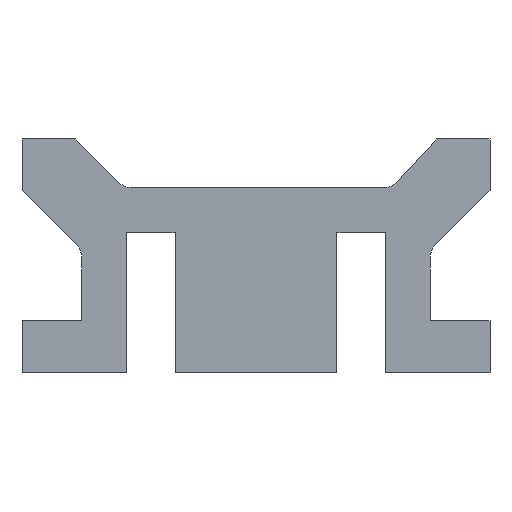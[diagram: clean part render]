
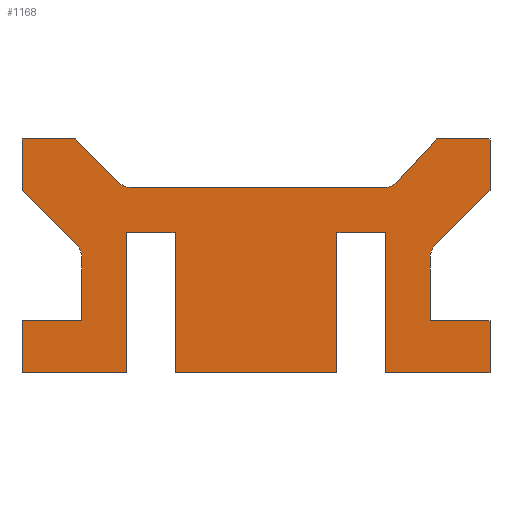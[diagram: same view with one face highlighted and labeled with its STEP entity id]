
A CAD part, front view. The second image highlights one B-rep face of the part: STEP entity #1168.
In plain terms, the highlighted planar face has unit normal (0, -1, 0).
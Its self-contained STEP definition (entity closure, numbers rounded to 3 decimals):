
#1=DIRECTION('',(-0.707,0.,0.707));
#2=VECTOR('',#1,6.525);
#3=CARTESIAN_POINT('',(-14.686,-200.,-4.614));
#4=LINE('',#3,#2);
#5=DIRECTION('',(-1.,0.,0.));
#6=VECTOR('',#5,26.896);
#7=CARTESIAN_POINT('',(13.624,-200.,-5.2));
#8=LINE('',#7,#6);
#9=DIRECTION('',(-0.678,0.,-0.735));
#10=VECTOR('',#9,6.201);
#11=CARTESIAN_POINT('',(19.3,-200.,0.));
#12=LINE('',#11,#10);
#13=DIRECTION('',(1.,0.,0.));
#14=VECTOR('',#13,5.7);
#15=CARTESIAN_POINT('',(19.3,-200.,0.));
#16=LINE('',#15,#14);
#17=DIRECTION('',(0.,0.,-1.));
#18=VECTOR('',#17,5.472);
#19=CARTESIAN_POINT('',(25.,-200.,0.));
#20=LINE('',#19,#18);
#21=DIRECTION('',(0.707,0.,0.707));
#22=VECTOR('',#21,8.223);
#23=CARTESIAN_POINT('',(19.186,-200.,-11.287));
#24=LINE('',#23,#22);
#25=DIRECTION('',(0.,0.,1.));
#26=VECTOR('',#25,6.699);
#27=CARTESIAN_POINT('',(18.6,-200.,-19.4));
#28=LINE('',#27,#26);
#29=DIRECTION('',(-1.,0.,0.));
#30=VECTOR('',#29,6.4);
#31=CARTESIAN_POINT('',(25.,-200.,-19.4));
#32=LINE('',#31,#30);
#33=DIRECTION('',(0.,0.,-1.));
#34=VECTOR('',#33,5.6);
#35=CARTESIAN_POINT('',(25.,-200.,-19.4));
#36=LINE('',#35,#34);
#37=DIRECTION('',(-1.,0.,0.));
#38=VECTOR('',#37,11.15);
#39=CARTESIAN_POINT('',(25.,-200.,-25.));
#40=LINE('',#39,#38);
#41=DIRECTION('',(0.,0.,1.));
#42=VECTOR('',#41,15.);
#43=CARTESIAN_POINT('',(13.85,-200.,-25.));
#44=LINE('',#43,#42);
#45=DIRECTION('',(1.,0.,0.));
#46=VECTOR('',#45,5.2);
#47=CARTESIAN_POINT('',(8.65,-200.,-10.));
#48=LINE('',#47,#46);
#49=DIRECTION('',(0.,0.,1.));
#50=VECTOR('',#49,15.);
#51=CARTESIAN_POINT('',(8.65,-200.,-25.));
#52=LINE('',#51,#50);
#53=DIRECTION('',(-1.,0.,0.));
#54=VECTOR('',#53,17.3);
#55=CARTESIAN_POINT('',(8.65,-200.,-25.));
#56=LINE('',#55,#54);
#57=DIRECTION('',(0.,0.,1.));
#58=VECTOR('',#57,15.);
#59=CARTESIAN_POINT('',(-8.65,-200.,-25.));
#60=LINE('',#59,#58);
#61=DIRECTION('',(1.,0.,0.));
#62=VECTOR('',#61,5.2);
#63=CARTESIAN_POINT('',(-13.85,-200.,-10.));
#64=LINE('',#63,#62);
#65=DIRECTION('',(0.,0.,1.));
#66=VECTOR('',#65,15.);
#67=CARTESIAN_POINT('',(-13.85,-200.,-25.));
#68=LINE('',#67,#66);
#69=DIRECTION('',(-1.,0.,0.));
#70=VECTOR('',#69,11.15);
#71=CARTESIAN_POINT('',(-13.85,-200.,-25.));
#72=LINE('',#71,#70);
#73=DIRECTION('',(0.,0.,1.));
#74=VECTOR('',#73,5.6);
#75=CARTESIAN_POINT('',(-25.,-200.,-25.));
#76=LINE('',#75,#74);
#77=DIRECTION('',(1.,0.,0.));
#78=VECTOR('',#77,6.4);
#79=CARTESIAN_POINT('',(-25.,-200.,-19.4));
#80=LINE('',#79,#78);
#81=DIRECTION('',(0.,0.,-1.));
#82=VECTOR('',#81,6.699);
#83=CARTESIAN_POINT('',(-18.6,-200.,-12.701));
#84=LINE('',#83,#82);
#85=DIRECTION('',(0.707,0.,-0.707));
#86=VECTOR('',#85,8.223);
#87=CARTESIAN_POINT('',(-25.,-200.,-5.472));
#88=LINE('',#87,#86);
#89=DIRECTION('',(0.,0.,1.));
#90=VECTOR('',#89,5.472);
#91=CARTESIAN_POINT('',(-25.,-200.,-5.472));
#92=LINE('',#91,#90);
#93=DIRECTION('',(1.,0.,0.));
#94=VECTOR('',#93,5.7);
#95=CARTESIAN_POINT('',(-25.,-200.,0.));
#96=LINE('',#95,#94);
#106=CARTESIAN_POINT('',(-13.272,-200.,-3.2));
#107=DIRECTION('',(0.,1.,0.));
#108=DIRECTION('',(0.,0.,-1.));
#109=AXIS2_PLACEMENT_3D('',#106,#107,#108);
#286=CARTESIAN_POINT('',(13.624,-200.,-3.2));
#287=DIRECTION('',(0.,1.,0.));
#288=DIRECTION('',(0.735,0.,-0.678));
#289=AXIS2_PLACEMENT_3D('',#286,#287,#288);
#328=CARTESIAN_POINT('',(-20.6,-200.,-12.701));
#329=DIRECTION('',(0.,1.,0.));
#330=DIRECTION('',(0.707,0.,0.707));
#331=AXIS2_PLACEMENT_3D('',#328,#329,#330);
#468=CARTESIAN_POINT('',(20.6,-200.,-12.701));
#469=DIRECTION('',(0.,1.,0.));
#470=DIRECTION('',(-1.,0.,0.));
#471=AXIS2_PLACEMENT_3D('',#468,#469,#470);
#853=CARTESIAN_POINT('',(-25.,-200.,0.));
#855=VERTEX_POINT('',#853);
#857=CARTESIAN_POINT('',(25.,-200.,0.));
#859=VERTEX_POINT('',#857);
#861=CARTESIAN_POINT('',(25.,-200.,-25.));
#863=VERTEX_POINT('',#861);
#865=CARTESIAN_POINT('',(-25.,-200.,-25.));
#867=VERTEX_POINT('',#865);
#869=CARTESIAN_POINT('',(-13.85,-200.,-25.));
#870=CARTESIAN_POINT('',(-13.85,-200.,-10.));
#871=VERTEX_POINT('',#869);
#872=VERTEX_POINT('',#870);
#873=CARTESIAN_POINT('',(-8.65,-200.,-10.));
#874=VERTEX_POINT('',#873);
#875=CARTESIAN_POINT('',(-8.65,-200.,-25.));
#876=VERTEX_POINT('',#875);
#877=CARTESIAN_POINT('',(-25.,-200.,-19.4));
#878=CARTESIAN_POINT('',(-18.6,-200.,-19.4));
#879=VERTEX_POINT('',#877);
#880=VERTEX_POINT('',#878);
#881=CARTESIAN_POINT('',(8.65,-200.,-25.));
#882=CARTESIAN_POINT('',(8.65,-200.,-10.));
#883=VERTEX_POINT('',#881);
#884=VERTEX_POINT('',#882);
#885=CARTESIAN_POINT('',(13.85,-200.,-10.));
#886=VERTEX_POINT('',#885);
#887=CARTESIAN_POINT('',(13.85,-200.,-25.));
#888=VERTEX_POINT('',#887);
#889=CARTESIAN_POINT('',(25.,-200.,-19.4));
#890=CARTESIAN_POINT('',(18.6,-200.,-19.4));
#891=VERTEX_POINT('',#889);
#892=VERTEX_POINT('',#890);
#917=CARTESIAN_POINT('',(-19.3,-200.,0.));
#919=VERTEX_POINT('',#917);
#921=CARTESIAN_POINT('',(19.3,-200.,0.));
#923=VERTEX_POINT('',#921);
#925=CARTESIAN_POINT('',(25.,-200.,-5.472));
#927=VERTEX_POINT('',#925);
#929=CARTESIAN_POINT('',(-25.,-200.,-5.472));
#931=VERTEX_POINT('',#929);
#970=CARTESIAN_POINT('',(13.624,-200.,-5.2));
#972=VERTEX_POINT('',#970);
#974=CARTESIAN_POINT('',(15.094,-200.,-4.557));
#976=VERTEX_POINT('',#974);
#978=CARTESIAN_POINT('',(-14.686,-200.,-4.614));
#980=VERTEX_POINT('',#978);
#982=CARTESIAN_POINT('',(-13.272,-200.,-5.2));
#984=VERTEX_POINT('',#982);
#986=CARTESIAN_POINT('',(19.186,-200.,-11.287));
#988=VERTEX_POINT('',#986);
#990=CARTESIAN_POINT('',(18.6,-200.,-12.701));
#992=VERTEX_POINT('',#990);
#994=CARTESIAN_POINT('',(-18.6,-200.,-12.701));
#996=VERTEX_POINT('',#994);
#998=CARTESIAN_POINT('',(-19.186,-200.,-11.287));
#1000=VERTEX_POINT('',#998);
#1105=CARTESIAN_POINT('',(0.,-200.,0.));
#1106=DIRECTION('',(0.,1.,0.));
#1107=DIRECTION('',(1.,0.,0.));
#1108=AXIS2_PLACEMENT_3D('',#1105,#1106,#1107);
#1109=PLANE('',#1108);
#1111=ORIENTED_EDGE('',*,*,#1110,.F.);
#1113=ORIENTED_EDGE('',*,*,#1112,.F.);
#1115=ORIENTED_EDGE('',*,*,#1114,.F.);
#1117=ORIENTED_EDGE('',*,*,#1116,.F.);
#1119=ORIENTED_EDGE('',*,*,#1118,.F.);
#1121=ORIENTED_EDGE('',*,*,#1120,.T.);
#1123=ORIENTED_EDGE('',*,*,#1122,.T.);
#1125=ORIENTED_EDGE('',*,*,#1124,.F.);
#1127=ORIENTED_EDGE('',*,*,#1126,.F.);
#1129=ORIENTED_EDGE('',*,*,#1128,.F.);
#1131=ORIENTED_EDGE('',*,*,#1130,.F.);
#1133=ORIENTED_EDGE('',*,*,#1132,.T.);
#1135=ORIENTED_EDGE('',*,*,#1134,.T.);
#1137=ORIENTED_EDGE('',*,*,#1136,.T.);
#1139=ORIENTED_EDGE('',*,*,#1138,.F.);
#1141=ORIENTED_EDGE('',*,*,#1140,.F.);
#1143=ORIENTED_EDGE('',*,*,#1142,.T.);
#1145=ORIENTED_EDGE('',*,*,#1144,.T.);
#1147=ORIENTED_EDGE('',*,*,#1146,.F.);
#1149=ORIENTED_EDGE('',*,*,#1148,.F.);
#1151=ORIENTED_EDGE('',*,*,#1150,.T.);
#1153=ORIENTED_EDGE('',*,*,#1152,.T.);
#1155=ORIENTED_EDGE('',*,*,#1154,.T.);
#1157=ORIENTED_EDGE('',*,*,#1156,.F.);
#1159=ORIENTED_EDGE('',*,*,#1158,.F.);
#1161=ORIENTED_EDGE('',*,*,#1160,.F.);
#1163=ORIENTED_EDGE('',*,*,#1162,.T.);
#1165=ORIENTED_EDGE('',*,*,#1164,.T.);
#1166=EDGE_LOOP('',(#1111,#1113,#1115,#1117,#1119,#1121,#1123,#1125,#1127,#1129,
#1131,#1133,#1135,#1137,#1139,#1141,#1143,#1145,#1147,#1149,#1151,#1153,#1155,
#1157,#1159,#1161,#1163,#1165));
#1167=FACE_OUTER_BOUND('',#1166,.F.);
#1168=ADVANCED_FACE('',(#1167),#1109,.F.);
#110=CIRCLE('',#109,2.);
#290=CIRCLE('',#289,2.);
#332=CIRCLE('',#331,2.);
#472=CIRCLE('',#471,2.);
#1110=EDGE_CURVE('',#980,#919,#4,.T.);
#1112=EDGE_CURVE('',#984,#980,#110,.T.);
#1114=EDGE_CURVE('',#972,#984,#8,.T.);
#1116=EDGE_CURVE('',#976,#972,#290,.T.);
#1118=EDGE_CURVE('',#923,#976,#12,.T.);
#1120=EDGE_CURVE('',#923,#859,#16,.T.);
#1122=EDGE_CURVE('',#859,#927,#20,.T.);
#1124=EDGE_CURVE('',#988,#927,#24,.T.);
#1126=EDGE_CURVE('',#992,#988,#472,.T.);
#1128=EDGE_CURVE('',#892,#992,#28,.T.);
#1130=EDGE_CURVE('',#891,#892,#32,.T.);
#1132=EDGE_CURVE('',#891,#863,#36,.T.);
#1134=EDGE_CURVE('',#863,#888,#40,.T.);
#1136=EDGE_CURVE('',#888,#886,#44,.T.);
#1138=EDGE_CURVE('',#884,#886,#48,.T.);
#1140=EDGE_CURVE('',#883,#884,#52,.T.);
#1142=EDGE_CURVE('',#883,#876,#56,.T.);
#1144=EDGE_CURVE('',#876,#874,#60,.T.);
#1146=EDGE_CURVE('',#872,#874,#64,.T.);
#1148=EDGE_CURVE('',#871,#872,#68,.T.);
#1150=EDGE_CURVE('',#871,#867,#72,.T.);
#1152=EDGE_CURVE('',#867,#879,#76,.T.);
#1154=EDGE_CURVE('',#879,#880,#80,.T.);
#1156=EDGE_CURVE('',#996,#880,#84,.T.);
#1158=EDGE_CURVE('',#1000,#996,#332,.T.);
#1160=EDGE_CURVE('',#931,#1000,#88,.T.);
#1162=EDGE_CURVE('',#931,#855,#92,.T.);
#1164=EDGE_CURVE('',#855,#919,#96,.T.);
